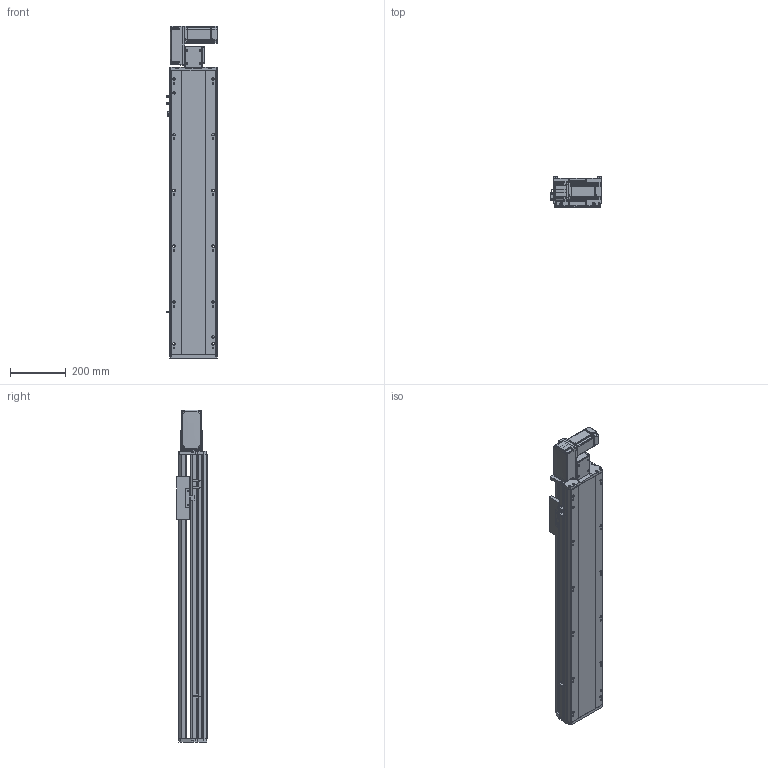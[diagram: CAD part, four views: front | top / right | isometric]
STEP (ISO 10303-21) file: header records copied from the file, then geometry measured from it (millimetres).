
FILE_DESCRIPTION (( 'STEP AP214' ), '1' );
FILE_NAME ('RTB17S-XX-750-L-M40-C4.STEP', '2025-12-11T03:57:50', ( '' ), ( '' ), 'SwSTEP 2.0', 'SolidWorks 2018', '' );
FILE_SCHEMA (( 'AUTOMOTIVE_DESIGN' ));
Length unit declared in the file: millimetre
Products named in the file (14): RTB14-L-017P^RTB17S-L-皮带座装配-400W_RTB17S-XX-XX-L-M40-C4（方程式）; RTB14-L-018P^RTB17S-L-皮带座装配-400W_RTB17S-XX-XX-L-M40-C4（方程式）; RTB14-L-008-M20--电机板^RTB17S-L-皮带座装配-400W_RTB17S-XX-XX-L-M40-C4（方程式）; 400W伺服电机^RTB17S-XX-XX-L-M40-C4（方程式）; RTB17S-L-001侧面板^RTB17S-XX-XX-L-M40-C4（方程式）; RTB17S-XX-750-L-M40-C4; RTB17S-L-皮带座装配-400W^RTB17S-XX-XX-L-M40-C4（方程式）; RTB17S-L-007上盖^RTB17S-XX-XX-L-M40-C4（方程式）; RTB14-L-005P--轴承塑胶压盖^RTB17S-L-皮带座装配-400W_RTB17S-XX-XX-L-M40-C4（方程式）; OMRON EE-SX672 传感器^RTB17S-XX-XX-L-M40-C4（方程式）; RTB17-R-011底座^RTB17S-XX-XX-L-M40-C4（方程式）; RMP17S-L-014-T20--皮带座^RTB17S-L-皮带座装配-400W_RTB17S-XX-XX-L-M40-C4（方程式）; RTB17S-L-004丝杆螺母连接座^RTB17S-XX-XX-L-M40-C4（方程式）; RTH13-BL-012感应片外置^RTB17S-XX-XX-L-M40-C4（方程式）
Assembly tree (16 placements, depth 3):
  RTB17S-XX-750-L-M40-C4
    RTB17-R-011底座^RTB17S-XX-XX-L-M40-C4（方程式）
    RTB17S-L-007上盖^RTB17S-XX-XX-L-M40-C4（方程式）
    OMRON EE-SX672 传感器^RTB17S-XX-XX-L-M40-C4（方程式）  x3
    RTB17S-L-001侧面板^RTB17S-XX-XX-L-M40-C4（方程式）
    400W伺服电机^RTB17S-XX-XX-L-M40-C4（方程式）
    RTB17S-L-004丝杆螺母连接座^RTB17S-XX-XX-L-M40-C4（方程式）
    RTH13-BL-012感应片外置^RTB17S-XX-XX-L-M40-C4（方程式）
    RTB17S-L-皮带座装配-400W^RTB17S-XX-XX-L-M40-C4（方程式）
      RMP17S-L-014-T20--皮带座^RTB17S-L-皮带座装配-400W_RTB17S-XX-XX-L-M40-C4（方程式）
      RTB14-L-005P--轴承塑胶压盖^RTB17S-L-皮带座装配-400W_RTB17S-XX-XX-L-M40-C4（方程式）
      RTB14-L-008-M20--电机板^RTB17S-L-皮带座装配-400W_RTB17S-XX-XX-L-M40-C4（方程式）
      RTB14-L-017P^RTB17S-L-皮带座装配-400W_RTB17S-XX-XX-L-M40-C4（方程式）  x2
      RTB14-L-018P^RTB17S-L-皮带座装配-400W_RTB17S-XX-XX-L-M40-C4（方程式）
Bounding box: 186 x 108 x 1191 mm (x, y, z)
Volume: 10335640.5 mm3; surface area: 1275742 mm2
Topology: 15 solids, 15 shells, 2189 faces, 6033 edges, 3933 vertices
Faces by surface type: plane 1066, cylinder 675, bspline 301, cone 139, torus 8
Entity records: 61865 total; most frequent: CARTESIAN_POINT 17238, ORIENTED_EDGE 8910, DIRECTION 8306, EDGE_CURVE 4455, VERTEX_POINT 2921, AXIS2_PLACEMENT_3D 2851, LINE 2604, VECTOR 2604
